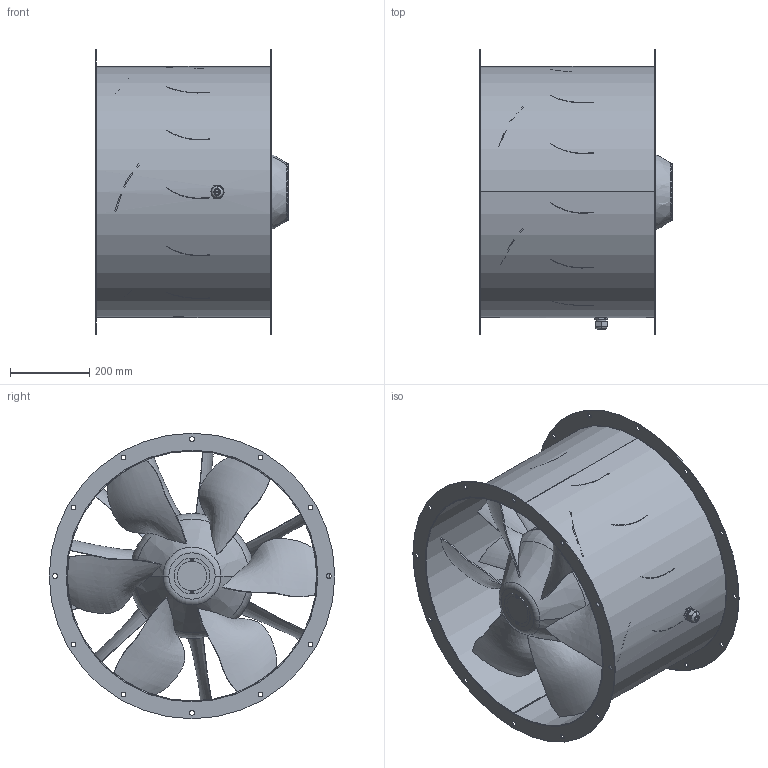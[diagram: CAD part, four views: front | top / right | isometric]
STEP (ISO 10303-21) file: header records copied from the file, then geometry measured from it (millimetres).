
FILE_DESCRIPTION (( 'STEP AP203' ), '1' );
FILE_NAME ('154154-00_AL630D601_step.step', '2020-05-29T11:16:20', ( '' ), ( '' ), 'SwSTEP 2.0', 'SolidWorks 2017', '' );
FILE_SCHEMA (( 'CONFIG_CONTROL_DESIGN' ));
Length unit declared in the file: millimetre
Products named in the file (1): 154154-00_AL630D601_step
Bounding box: 486 x 720 x 720 mm (x, y, z)
Surface area: 3827997.2 mm2 (no closed solid volume)
Topology: 0 solids, 100 shells, 1569 faces, 7062 edges, 5394 vertices
Faces by surface type: plane 658, cylinder 489, bspline 317, cone 66, torus 39
Entity records: 514640 total; most frequent: CARTESIAN_POINT 464411, ORIENTED_EDGE 9302, DIRECTION 8715, EDGE_CURVE 7062, VERTEX_POINT 5394, LINE 3409, VECTOR 3409, AXIS2_PLACEMENT_3D 2653
